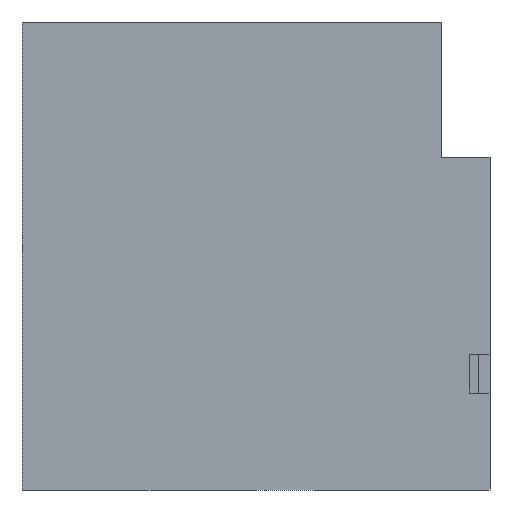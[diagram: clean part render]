
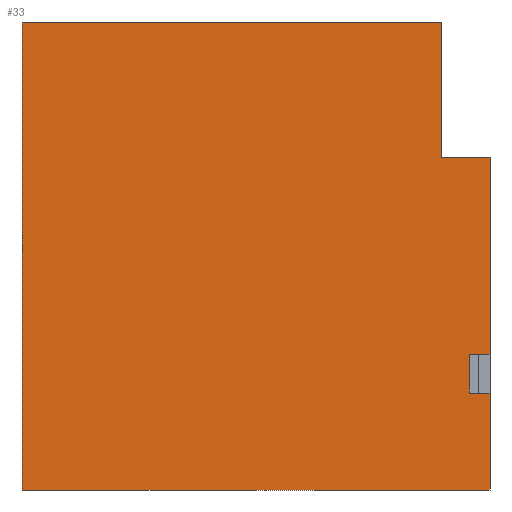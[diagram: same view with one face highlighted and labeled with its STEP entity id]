
A CAD part, left-side view. The second image highlights one B-rep face of the part: STEP entity #33.
In plain terms, the highlighted planar face has unit normal (-1, 0, 0).
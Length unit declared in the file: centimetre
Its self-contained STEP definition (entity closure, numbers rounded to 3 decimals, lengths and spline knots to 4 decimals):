
#6 = ORIENTED_EDGE ( 'NONE', *, *, #358, .F. ) ;
#13 = EDGE_CURVE ( 'NONE', #480, #718, #190, .T. ) ;
#26 = AXIS2_PLACEMENT_3D ( 'NONE', #286, #1067, #93 ) ;
#28 = VECTOR ( 'NONE', #1074, 100. ) ;
#33 = ADVANCED_FACE ( 'NONE', ( #1288 ), #178, .F. ) ;
#52 = DIRECTION ( 'NONE',  ( 0., -1., 0. ) ) ;
#67 = CARTESIAN_POINT ( 'NONE',  ( 0., 1000., 1000. ) ) ;
#93 = DIRECTION ( 'NONE',  ( 0., 0., -1. ) ) ;
#140 = VECTOR ( 'NONE', #796, 100. ) ;
#150 = CARTESIAN_POINT ( 'NONE',  ( 0., 1000., 0. ) ) ;
#155 = DIRECTION ( 'NONE',  ( 0., 0., 1. ) ) ;
#178 = PLANE ( 'NONE',  #26 ) ;
#184 = DIRECTION ( 'NONE',  ( 0., -1., 0. ) ) ;
#185 = CARTESIAN_POINT ( 'NONE',  ( 0., 1000., 1000. ) ) ;
#187 = CARTESIAN_POINT ( 'NONE',  ( 0., 102.5969, 710.7798 ) ) ;
#190 = LINE ( 'NONE', #428, #1368 ) ;
#199 = ORIENTED_EDGE ( 'NONE', *, *, #287, .T. ) ;
#254 = CARTESIAN_POINT ( 'NONE',  ( 0., 102.5969, 1000. ) ) ;
#271 = EDGE_CURVE ( 'NONE', #359, #883, #577, .T. ) ;
#276 = DIRECTION ( 'NONE',  ( 0., -1., 0. ) ) ;
#278 = LINE ( 'NONE', #929, #763 ) ;
#286 = CARTESIAN_POINT ( 'NONE',  ( 0., 1000., 1000. ) ) ;
#287 = EDGE_CURVE ( 'NONE', #1332, #570, #908, .T. ) ;
#346 = VECTOR ( 'NONE', #830, 100. ) ;
#356 = ORIENTED_EDGE ( 'NONE', *, *, #536, .T. ) ;
#358 = EDGE_CURVE ( 'NONE', #1332, #480, #278, .T. ) ;
#359 = VERTEX_POINT ( 'NONE', #150 ) ;
#361 = CARTESIAN_POINT ( 'NONE',  ( 0., 44.7637, 289.7346 ) ) ;
#368 = DIRECTION ( 'NONE',  ( 0., -1., 0. ) ) ;
#428 = CARTESIAN_POINT ( 'NONE',  ( 0., 44.7637, 207.1733 ) ) ;
#435 = EDGE_CURVE ( 'NONE', #718, #883, #1307, .T. ) ;
#449 = EDGE_LOOP ( 'NONE', ( #1009, #356, #703, #799, #868, #1241, #694, #6, #199, #734 ) ) ;
#474 = CARTESIAN_POINT ( 'NONE',  ( 0., 1000., 1000. ) ) ;
#480 = VERTEX_POINT ( 'NONE', #523 ) ;
#523 = CARTESIAN_POINT ( 'NONE',  ( 0., 44.7637, 207.1733 ) ) ;
#536 = EDGE_CURVE ( 'NONE', #760, #678, #1108, .T. ) ;
#570 = VERTEX_POINT ( 'NONE', #721 ) ;
#577 = LINE ( 'NONE', #1359, #926 ) ;
#603 = CARTESIAN_POINT ( 'NONE',  ( 0., 102.5969, 710.7798 ) ) ;
#621 = CARTESIAN_POINT ( 'NONE',  ( 0., 0., 710.7798 ) ) ;
#628 = VECTOR ( 'NONE', #155, 100. ) ;
#678 = VERTEX_POINT ( 'NONE', #254 ) ;
#682 = CARTESIAN_POINT ( 'NONE',  ( 0., 44.7637, 289.7346 ) ) ;
#687 = CARTESIAN_POINT ( 'NONE',  ( 0., 0., 1000. ) ) ;
#694 = ORIENTED_EDGE ( 'NONE', *, *, #13, .F. ) ;
#703 = ORIENTED_EDGE ( 'NONE', *, *, #912, .F. ) ;
#718 = VERTEX_POINT ( 'NONE', #1283 ) ;
#721 = CARTESIAN_POINT ( 'NONE',  ( 0., 0., 289.7346 ) ) ;
#730 = LINE ( 'NONE', #187, #957 ) ;
#734 = ORIENTED_EDGE ( 'NONE', *, *, #1259, .F. ) ;
#736 = LINE ( 'NONE', #67, #346 ) ;
#740 = EDGE_CURVE ( 'NONE', #1218, #359, #736, .T. ) ;
#760 = VERTEX_POINT ( 'NONE', #1055 ) ;
#763 = VECTOR ( 'NONE', #920, 100. ) ;
#796 = DIRECTION ( 'NONE',  ( 0., -1., 0. ) ) ;
#799 = ORIENTED_EDGE ( 'NONE', *, *, #740, .T. ) ;
#808 = VERTEX_POINT ( 'NONE', #621 ) ;
#830 = DIRECTION ( 'NONE',  ( 0., 0., -1. ) ) ;
#868 = ORIENTED_EDGE ( 'NONE', *, *, #271, .T. ) ;
#883 = VERTEX_POINT ( 'NONE', #1172 ) ;
#908 = LINE ( 'NONE', #361, #140 ) ;
#912 = EDGE_CURVE ( 'NONE', #1218, #678, #1058, .T. ) ;
#920 = DIRECTION ( 'NONE',  ( 0., 0., -1. ) ) ;
#926 = VECTOR ( 'NONE', #368, 100. ) ;
#929 = CARTESIAN_POINT ( 'NONE',  ( 0., 44.7637, 207.1733 ) ) ;
#957 = VECTOR ( 'NONE', #276, 100. ) ;
#998 = VECTOR ( 'NONE', #52, 100. ) ;
#1009 = ORIENTED_EDGE ( 'NONE', *, *, #1010, .F. ) ;
#1010 = EDGE_CURVE ( 'NONE', #760, #808, #730, .T. ) ;
#1013 = LINE ( 'NONE', #687, #1341 ) ;
#1055 = CARTESIAN_POINT ( 'NONE',  ( 0., 102.5969, 710.7798 ) ) ;
#1058 = LINE ( 'NONE', #185, #998 ) ;
#1067 = DIRECTION ( 'NONE',  ( 1., 0., 0. ) ) ;
#1074 = DIRECTION ( 'NONE',  ( 0., 0., -1. ) ) ;
#1108 = LINE ( 'NONE', #603, #628 ) ;
#1126 = DIRECTION ( 'NONE',  ( 0., 0., -1. ) ) ;
#1172 = CARTESIAN_POINT ( 'NONE',  ( 0., 0., 0. ) ) ;
#1218 = VERTEX_POINT ( 'NONE', #474 ) ;
#1241 = ORIENTED_EDGE ( 'NONE', *, *, #435, .F. ) ;
#1259 = EDGE_CURVE ( 'NONE', #808, #570, #1013, .T. ) ;
#1283 = CARTESIAN_POINT ( 'NONE',  ( 0., 0., 207.1733 ) ) ;
#1288 = FACE_OUTER_BOUND ( 'NONE', #449, .T. ) ;
#1301 = CARTESIAN_POINT ( 'NONE',  ( 0., 0., 1000. ) ) ;
#1307 = LINE ( 'NONE', #1301, #28 ) ;
#1332 = VERTEX_POINT ( 'NONE', #682 ) ;
#1341 = VECTOR ( 'NONE', #1126, 100. ) ;
#1359 = CARTESIAN_POINT ( 'NONE',  ( 0., 1000., 0. ) ) ;
#1368 = VECTOR ( 'NONE', #184, 100. ) ;
